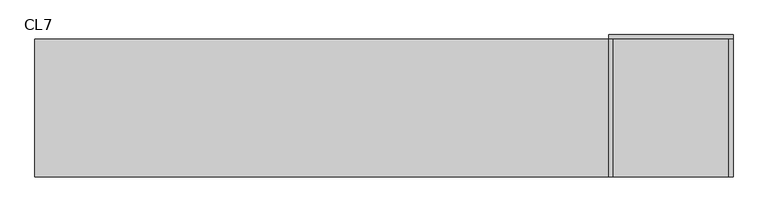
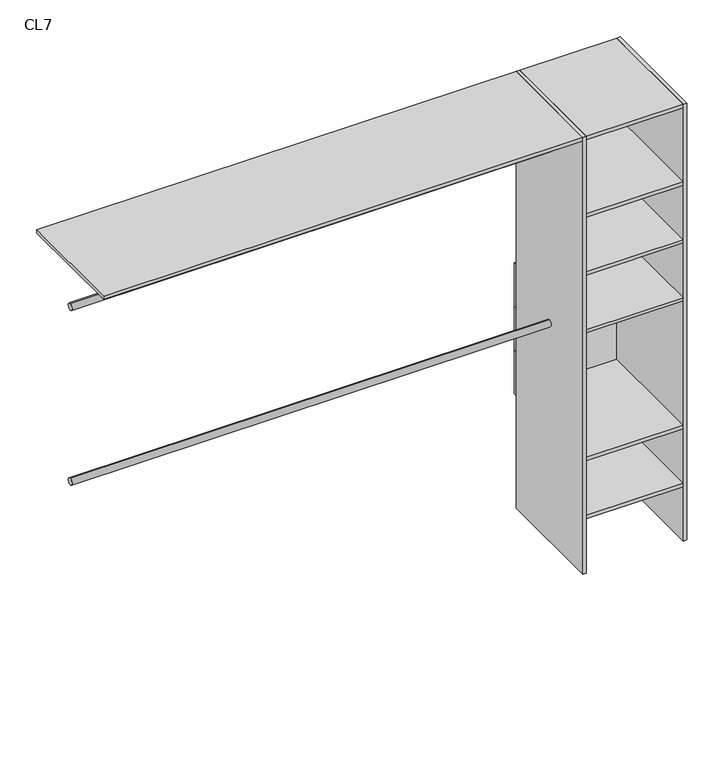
"""IFC4 building model written with IfcOpenShell, lengths in millimetres: furniture geometry, Closet 1estantes-1tubos_sin laterales : CL7."""

from ifc_helpers import new_model, si_unit, point, frame, frame_2d, origin, origin_with_axes, place, context, project, spatial, polyline, circle_curve, trimmed, segment, composite_curve, outline, extrude, source, transform, mapped, element, save


def cl7_9b632dec(model_context):
    return source(origin(), model_context, "Body", "SweptSolid", [
        extrude(outline(polyline([(225.0, -100.0), (225.0, -600.0), (210.0, -600.0), (210.0, -100.0), (225.0, -100.0)])), origin_with_axes(), (0.0, 0.0, 1.0), 2000.0),
        extrude(outline(polyline([(-210.0, -100.0), (-210.0, -600.0), (-225.0, -600.0), (-225.0, -100.0), (-210.0, -100.0)])), origin_with_axes(), (0.0, 0.0, 1.0), 2000.0),
        extrude(outline(polyline([(225.0, -100.0), (-225.0, -100.0), (-225.0, -85.0), (225.0, -85.0), (225.0, -100.0)])), frame((0.0, 0.0, 915.0), z_axis=(0.0, 0.0, 1.0), x_axis=(1.0, 0.0, 0.0)), (0.0, 0.0, 1.0), 200.0),
        extrude(outline(polyline([(225.0, -100.0), (-225.0, -100.0), (-225.0, -85.0), (225.0, -85.0), (225.0, -100.0)])), frame((0.0, 0.0, 715.0), z_axis=(0.0, 0.0, 1.0), x_axis=(1.0, 0.0, 0.0)), (0.0, 0.0, 1.0), 200.0),
        extrude(outline(polyline([(225.0, -100.0), (-225.0, -100.0), (-225.0, -85.0), (225.0, -85.0), (225.0, -100.0)])), frame((0.0, 0.0, 515.0), z_axis=(0.0, 0.0, 1.0), x_axis=(1.0, 0.0, 0.0)), (0.0, 0.0, 1.0), 200.0),
        extrude(outline(polyline([(210.0, -100.0), (210.0, -600.0), (-210.0, -600.0), (-210.0, -100.0), (210.0, -100.0)])), frame((0.0, 0.0, 1100.0), z_axis=(0.0, 0.0, 1.0), x_axis=(1.0, 0.0, 0.0)), (0.0, 0.0, 1.0), 15.0),
        extrude(outline(composite_curve([segment(trimmed(circle_curve(frame_2d((-350.0, 1000.0)), 15.0), [point((-350.0, 1015.0))], [point((-350.0, 985.0))], False, "CARTESIAN"), True, "CONTINUOUS"), segment(trimmed(circle_curve(frame_2d((-350.0, 1000.0)), 15.0), [point((-350.0, 985.0))], [point((-350.0, 1015.0))], False, "CARTESIAN"), True, "CONTINUOUS")], self_intersect=False)), frame((-2300.0, 0.0, 0.0), z_axis=(1.0, 0.0, 0.0), x_axis=(0.0, 1.0, 0.0)), (0.0, 0.0, 1.0), 2075.0),
        extrude(outline(composite_curve([segment(trimmed(circle_curve(frame_2d((-350.0, 1800.0)), 15.0), [point((-350.0, 1815.0))], [point((-350.0, 1785.0))], False, "CARTESIAN"), True, "CONTINUOUS"), segment(trimmed(circle_curve(frame_2d((-350.0, 1800.0)), 15.0), [point((-350.0, 1785.0))], [point((-350.0, 1815.0))], False, "CARTESIAN"), True, "CONTINUOUS")], self_intersect=False)), frame((-2300.0, 0.0, 0.0), z_axis=(1.0, 0.0, 0.0), x_axis=(0.0, 1.0, 0.0)), (0.0, 0.0, 1.0), 2075.0),
        extrude(outline(polyline([(210.0, -100.0), (210.0, -600.0), (-210.0, -600.0), (-210.0, -100.0), (210.0, -100.0)])), frame((0.0, 0.0, 250.0), z_axis=(0.0, 0.0, 1.0), x_axis=(1.0, 0.0, 0.0)), (0.0, 0.0, 1.0), 15.0),
        extrude(outline(polyline([(210.0, -100.0), (210.0, -600.0), (-210.0, -600.0), (-210.0, -100.0), (210.0, -100.0)])), frame((0.0, 0.0, 515.0), z_axis=(0.0, 0.0, 1.0), x_axis=(1.0, 0.0, 0.0)), (0.0, 0.0, 1.0), 15.0),
        extrude(outline(polyline([(210.0, -100.0), (210.0, -600.0), (-210.0, -600.0), (-210.0, -100.0), (210.0, -100.0)])), frame((0.0, 0.0, 1365.0), z_axis=(0.0, 0.0, 1.0), x_axis=(1.0, 0.0, 0.0)), (0.0, 0.0, 1.0), 15.0),
        extrude(outline(polyline([(210.0, -100.0), (210.0, -600.0), (-210.0, -600.0), (-210.0, -100.0), (210.0, -100.0)])), frame((0.0, 0.0, 1630.0), z_axis=(0.0, 0.0, 1.0), x_axis=(1.0, 0.0, 0.0)), (0.0, 0.0, 1.0), 15.0),
        extrude(outline(polyline([(-210.0, -100.0), (-210.0, -600.0), (-2300.0, -600.0), (-2300.0, -100.0), (-210.0, -100.0)])), frame((0.0, 0.0, 1985.0), z_axis=(0.0, 0.0, 1.0), x_axis=(1.0, 0.0, 0.0)), (0.0, 0.0, 1.0), 15.0),
        extrude(outline(polyline([(210.0, -100.0), (210.0, -600.0), (-210.0, -600.0), (-210.0, -100.0), (210.0, -100.0)])), frame((0.0, 0.0, 1985.0), z_axis=(0.0, 0.0, 1.0), x_axis=(1.0, 0.0, 0.0)), (0.0, 0.0, 1.0), 15.0),
    ])


if __name__ == "__main__":
    model = new_model("IFC4")
    model_context = context("Model", 3, world=origin())
    ifc_project = project(units=[si_unit("LENGTHUNIT", "METRE", prefix="MILLI")], contexts=[model_context])
    site = spatial("IfcSite", under=ifc_project)
    building = spatial("IfcBuilding", under=site)
    placement = place(None, origin())
    cl7_shape = cl7_9b632dec(model_context)
    element("IfcFurniture", 1, ObjectType="Closet 1estantes-1tubos_sin laterales : CL7", at=placement, inside=building, context=model_context, shape_type="MappedRepresentation", body=[
        mapped(cl7_shape, transform((0.0, 0.0, 0.0), x_axis=(1.0, 0.0, 0.0), y_axis=(0.0, 1.0, 0.0), z_axis=(0.0, 0.0, 1.0))),
    ])
    save(model, "model.ifc")
